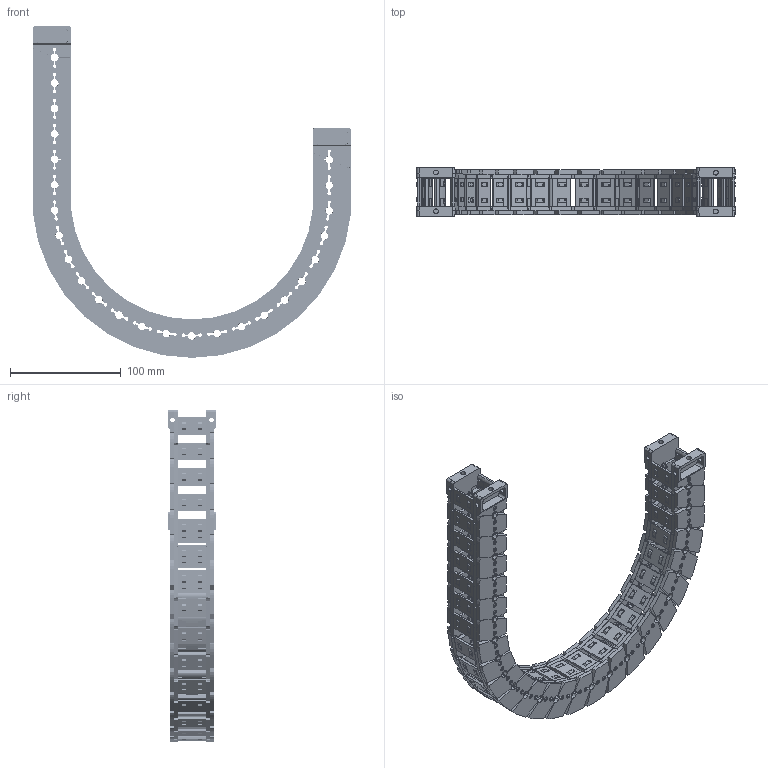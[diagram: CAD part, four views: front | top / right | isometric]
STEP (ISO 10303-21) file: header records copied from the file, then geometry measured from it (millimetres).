
FILE_DESCRIPTION((''),'2;1');
FILE_NAME('JY-28X25-R125_ASM','2026-03-25T19:51:34',('admin'),(''),'CREO PARAMETRIC BY PTC INC, 2021023','CREO PARAMETRIC BY PTC INC, 2021023','');
FILE_SCHEMA(('CONFIG_CONTROL_DESIGN'));
Length unit declared in the file: millimetre
Products named in the file (11): 28XL-L; 25-35XL-YP; 28XL-R; ASM0001_ASM; 28-LTT-A-L; 28-LTT-A-R; 28XL-LTT-A_ASM; 28-LTT-B-L; 28-LTT-B-R; 28XL-LTT-B_ASM; JY-28X25-R125_ASM
Assembly tree (38 placements, depth 3):
  JY-28X25-R125_ASM
    ASM0001_ASM  x24
      28XL-L
      25-35XL-YP
      28XL-R
    28XL-LTT-A_ASM
      28-LTT-A-L
      25-35XL-YP  x2
      28-LTT-A-R
    28XL-LTT-B_ASM
      28-LTT-B-L
      25-35XL-YP  x2
      28-LTT-B-R
Bounding box: 287.57 x 44 x 299.79 mm (x, y, z)
Volume: 327325.4 mm3; surface area: 239563.5 mm2
Topology: 104 solids, 104 shells, 8438 faces, 25084 edges, 16750 vertices
Faces by surface type: plane 5532, cone 1522, cylinder 1210, bspline 174
Entity records: 29143 total; most frequent: CARTESIAN_POINT 9496, ORIENTED_EDGE 4352, DIRECTION 3667, EDGE_CURVE 2176, VERTEX_POINT 1454, VECTOR 1365, LINE 1365, AXIS2_PLACEMENT_3D 1151
